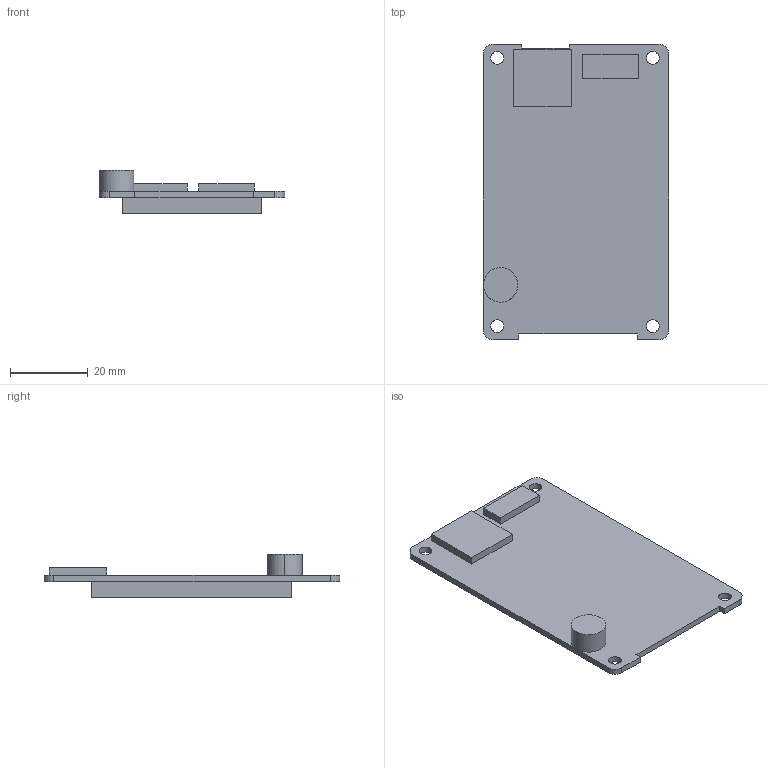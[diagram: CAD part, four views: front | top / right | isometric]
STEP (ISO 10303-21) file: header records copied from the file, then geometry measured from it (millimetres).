
FILE_DESCRIPTION((''),'2;1');
FILE_NAME('DMG32240C020-03WN','2022-04-06T',('Administrator'),(''),'PRO/ENGINEER BY PARAMETRIC TECHNOLOGY CORPORATION, 2014320','PRO/ENGINEER BY PARAMETRIC TECHNOLOGY CORPORATION, 2014320','');
FILE_SCHEMA(('CONFIG_CONTROL_DESIGN','SHAPE_APPEARANCE_LAYERS_GROUPS'));
Length unit declared in the file: millimetre
Products named in the file (1): DMG32240C020-03WN
Bounding box: 47.75 x 76.2 x 11.3 mm (x, y, z)
Volume: 14155.3 mm3; surface area: 8665.5 mm2
Topology: 1 solids, 1 shells, 156 faces, 426 edges, 284 vertices
Faces by surface type: plane 142, cylinder 14
Entity records: 4960 total; most frequent: CARTESIAN_POINT 866, ORIENTED_EDGE 852, DIRECTION 766, EDGE_CURVE 426, VECTOR 398, LINE 398, VERTEX_POINT 284, AXIS2_PLACEMENT_3D 184
